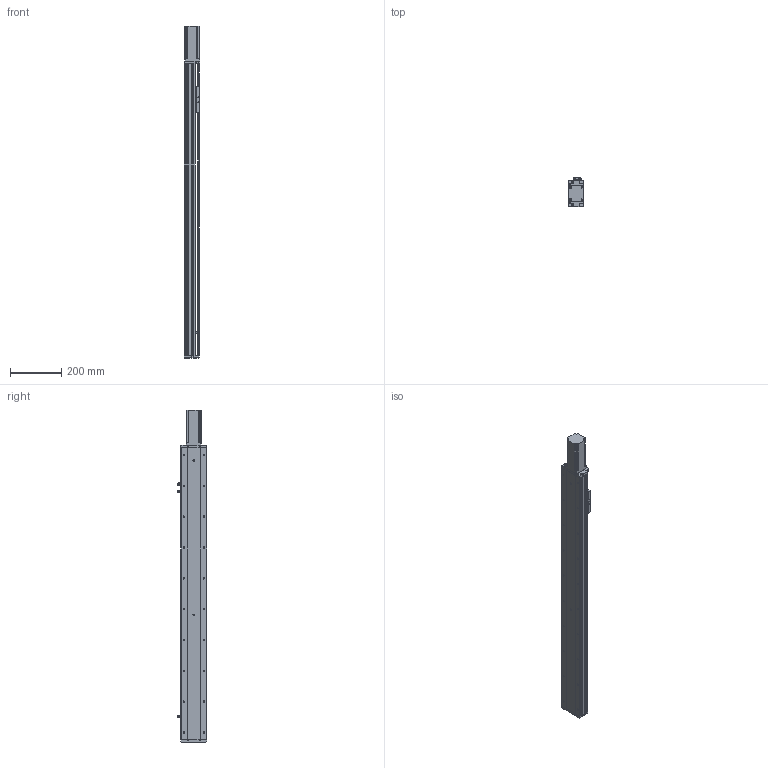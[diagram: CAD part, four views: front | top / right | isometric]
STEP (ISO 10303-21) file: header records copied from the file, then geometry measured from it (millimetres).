
FILE_DESCRIPTION (( 'STEP AP214' ), '1' );
FILE_NAME ('KSD100S-S900-MN-CM.STEP', '2019-08-30T07:45:18', ( '微软用户' ), ( '微软中国' ), 'SwSTEP 2.0', 'SolidWorks 2014', '' );
FILE_SCHEMA (( 'AUTOMOTIVE_DESIGN' ));
Length unit declared in the file: millimetre
Products named in the file (9): 100宽滚珠螺姆安装板半封闭; 100遵傷啣; 100宽底板半封闭900行程丝杆不带电机座; KSD100S-S900-MN-CM; 台达ECMA－C20604AS伺服电机; 覜茼え100遵圉猾敕; U倰嫖萇EEㄜSX672; 100宽防尘板丝杆900行程不带电机座; 100宽马达安装板不带电机座
Assembly tree (10 placements, depth 2):
  KSD100S-S900-MN-CM
    100宽底板半封闭900行程丝杆不带电机座
    100遵傷啣
    100宽滚珠螺姆安装板半封闭
    100宽马达安装板不带电机座
    100宽防尘板丝杆900行程不带电机座
    U倰嫖萇EEㄜSX672  x3
    覜茼え100遵圉猾敕
    台达ECMA－C20604AS伺服电机
Bounding box: 62 x 113.7 x 1292 mm (x, y, z)
Volume: 2653699.3 mm3; surface area: 840844.4 mm2
Topology: 11 solids, 11 shells, 1178 faces, 3348 edges, 2107 vertices
Faces by surface type: cylinder 571, plane 468, cone 139
Entity records: 41398 total; most frequent: CARTESIAN_POINT 8674, DIRECTION 5451, ORIENTED_EDGE 5324, EDGE_CURVE 2662, AXIS2_PLACEMENT_3D 1976, VERTEX_POINT 1731, LINE 1499, VECTOR 1499
